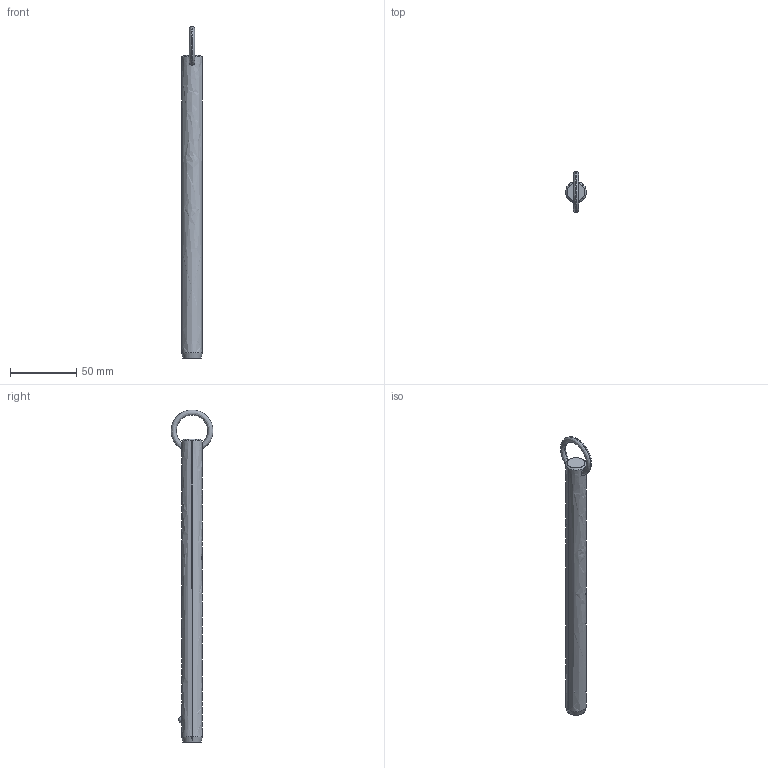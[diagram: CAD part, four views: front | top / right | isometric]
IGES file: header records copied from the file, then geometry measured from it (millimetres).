
Start section: SolidWorks IGES file using analytic representation for surfaces
Global section: file name: C:\Users\liam_\OneDrive\Documents\WORK\Work for WixRoyd\Job Files\J-00019 - Matt Davis CAD Checking\04. CAD Drawings\automotion20190605\P1250.2_v2\P1250.2_v2_20190729_IGES\P1250.062-790.igs; native system: SolidWorks 2017; preprocessor: SolidWorks 2017; author: liam_; date: 190729.234607; units: millimetre
Bounding box: 15.8 x 31.7 x 251.4 mm (x, y, z)
Surface area: 12550.7 mm2 (no closed solid volume)
Topology: 0 solids, 0 shells, 12 faces, 292 edges, 290 vertices
Faces by surface type: revolution 8, bspline 4
